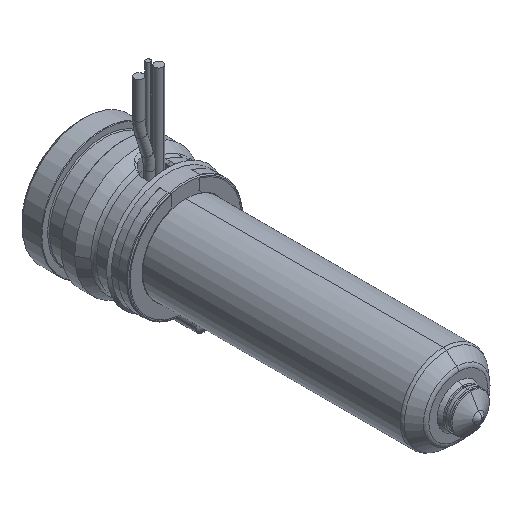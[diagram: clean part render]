
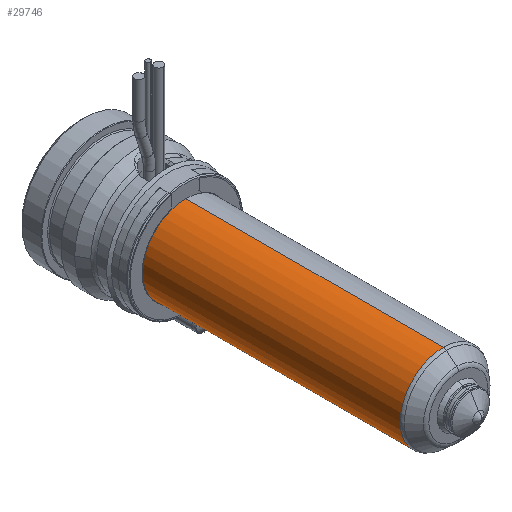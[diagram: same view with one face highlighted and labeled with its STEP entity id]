
A CAD part, isometric view. The second image highlights one B-rep face of the part: STEP entity #29746.
In plain terms, the highlighted cylindrical face has radius 9 mm (diameter 18 mm), a partial arc.
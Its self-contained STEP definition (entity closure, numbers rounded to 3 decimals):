
#29144=CARTESIAN_POINT('',(0.,-75.836,0.));
#29145=DIRECTION('',(0.,-1.,0.));
#29146=DIRECTION('',(0.,0.,1.));
#29147=AXIS2_PLACEMENT_3D('',#29144,#29145,#29146);
#29149=CARTESIAN_POINT('',(0.,-22.,0.));
#29150=DIRECTION('',(0.,1.,0.));
#29151=DIRECTION('',(0.,0.,-1.));
#29152=AXIS2_PLACEMENT_3D('',#29149,#29150,#29151);
#29154=DIRECTION('',(0.,1.,0.));
#29155=VECTOR('',#29154,53.836);
#29156=CARTESIAN_POINT('',(0.,-75.836,9.));
#29157=LINE('',#29156,#29155);
#29163=DIRECTION('',(0.,1.,0.));
#29164=VECTOR('',#29163,53.836);
#29165=CARTESIAN_POINT('',(0.,-75.836,-9.));
#29166=LINE('',#29165,#29164);
#29289=CARTESIAN_POINT('',(0.,-75.836,9.));
#29290=CARTESIAN_POINT('',(0.,-22.,9.));
#29291=VERTEX_POINT('',#29289);
#29292=VERTEX_POINT('',#29290);
#29293=CARTESIAN_POINT('',(0.,-75.836,-9.));
#29294=CARTESIAN_POINT('',(0.,-22.,-9.));
#29295=VERTEX_POINT('',#29293);
#29296=VERTEX_POINT('',#29294);
#29732=CARTESIAN_POINT('',(0.,-14.7,0.));
#29733=DIRECTION('',(0.,-1.,0.));
#29734=DIRECTION('',(0.,0.,1.));
#29735=AXIS2_PLACEMENT_3D('',#29732,#29733,#29734);
#29736=CYLINDRICAL_SURFACE('',#29735,9.);
#29738=ORIENTED_EDGE('',*,*,#29737,.F.);
#29739=ORIENTED_EDGE('',*,*,#29720,.T.);
#29741=ORIENTED_EDGE('',*,*,#29740,.T.);
#29743=ORIENTED_EDGE('',*,*,#29742,.T.);
#29744=EDGE_LOOP('',(#29738,#29739,#29741,#29743));
#29745=FACE_OUTER_BOUND('',#29744,.F.);
#29746=ADVANCED_FACE('',(#29745),#29736,.T.);
#29148=CIRCLE('',#29147,9.);
#29153=CIRCLE('',#29152,9.);
#29720=EDGE_CURVE('',#29291,#29295,#29148,.T.);
#29737=EDGE_CURVE('',#29291,#29292,#29157,.T.);
#29740=EDGE_CURVE('',#29295,#29296,#29166,.T.);
#29742=EDGE_CURVE('',#29296,#29292,#29153,.T.);
